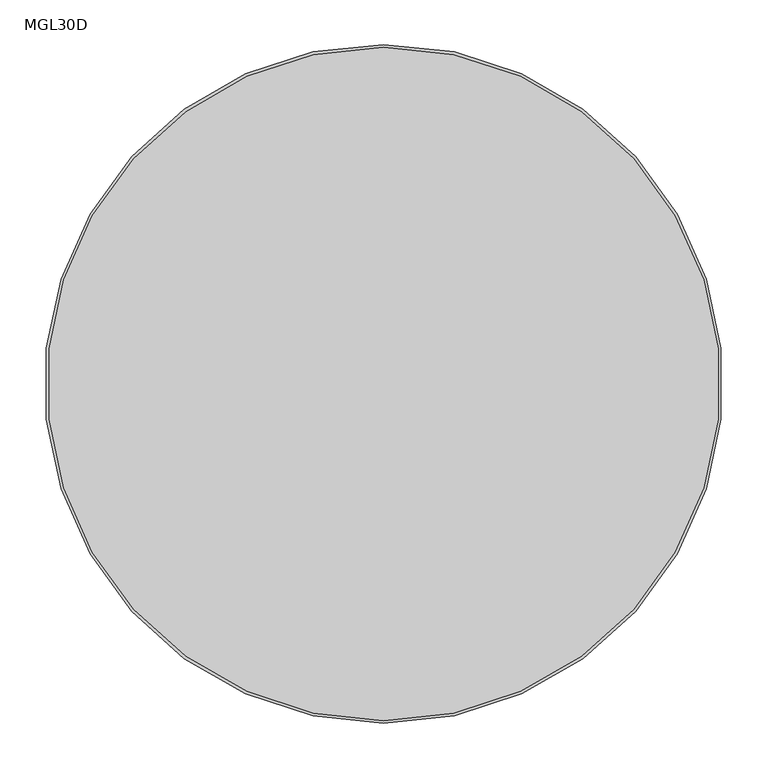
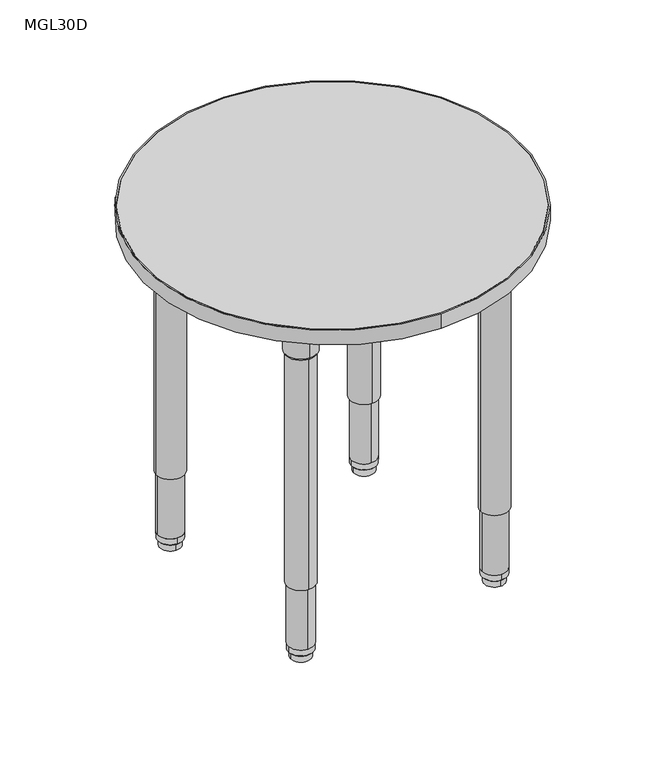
"""IFC4 building model written with IfcOpenShell, lengths in millimetres: furniture geometry, ERG-Mingle-Table-Round : MGL30D."""

from ifc_helpers import new_model, si_unit, point, frame, frame_2d, origin, origin_2d, place, context, project, spatial, polyline, circle_curve, trimmed, segment, composite_curve, outline, extrude, source, transform, mapped, element, save
from ifc_brep_helpers import plane_surface, cylinder_surface, revolved_surface, advanced_brep


def mgl30d_0bfcbd0f(model_context):
    return source(origin(), model_context, "Body", "SolidModel", [
        advanced_brep(
        [(187.8982412, -189.5786792, 650.5933069), (247.9688728, -189.5786792, 650.5933069), (217.933557, -189.5786792, 650.5933069), (185.789674, -189.5786792, 654.3580481), (250.0774401, -189.5786792, 654.3580481), (184.8541922, -189.5786792, 707.7631458), (251.0129219, -189.5786792, 707.7631458), (181.40464, -189.5786792, 714.1198315), (254.462474, -189.5786792, 714.1198315), (181.40464, -189.5786792, 726.8198315), (254.462474, -189.5786792, 726.8198315), (217.933557, -189.5786792, 726.8198315)],
        [
            (0, 1, circle_curve(frame((217.933557, -189.5786792, 650.5933069), z_axis=(0.0, 0.0, -1.0), x_axis=(1.0, 0.0, 0.0)), 30.0353158)),
            (1, 2),
            (2, 0),
            (1, 0, circle_curve(frame((217.933557, -189.5786792, 650.5933069), z_axis=(0.0, 0.0, -1.0), x_axis=(1.0, 0.0, 0.0)), 30.0353158)),
            (3, 4, circle_curve(frame((217.933557, -189.5786792, 654.3580481), z_axis=(0.0, 0.0, -1.0), x_axis=(1.0, 0.0, 0.0)), 32.143883)),
            (4, 1),
            (0, 3),
            (4, 3, circle_curve(frame((217.933557, -189.5786792, 654.3580481), z_axis=(0.0, 0.0, -1.0), x_axis=(1.0, 0.0, 0.0)), 32.143883)),
            (5, 6, circle_curve(frame((217.933557, -189.5786792, 707.7631458), z_axis=(0.0, 0.0, -1.0), x_axis=(1.0, 0.0, 0.0)), 33.0793649)),
            (6, 4),
            (3, 5),
            (6, 5, circle_curve(frame((217.933557, -189.5786792, 707.7631458), z_axis=(0.0, 0.0, -1.0), x_axis=(1.0, 0.0, 0.0)), 33.0793649)),
            (7, 8, circle_curve(frame((217.933557, -189.5786792, 714.1198315), z_axis=(0.0, 0.0, -1.0), x_axis=(1.0, 0.0, 0.0)), 36.528917)),
            (8, 6),
            (5, 7),
            (8, 7, circle_curve(frame((217.933557, -189.5786792, 714.1198315), z_axis=(0.0, 0.0, -1.0), x_axis=(1.0, 0.0, 0.0)), 36.528917)),
            (9, 10, circle_curve(frame((217.933557, -189.5786792, 726.8198315), z_axis=(0.0, 0.0, -1.0), x_axis=(1.0, 0.0, 0.0)), 36.528917)),
            (10, 8),
            (7, 9),
            (10, 9, circle_curve(frame((217.933557, -189.5786792, 726.8198315), z_axis=(0.0, 0.0, -1.0), x_axis=(1.0, 0.0, 0.0)), 36.528917)),
            (11, 10),
            (9, 11),
        ],
        [
            plane_surface(frame((217.933557, -189.5786792, 650.5933069), z_axis=(0.0, 0.0, -1.0), x_axis=(1.0, 0.0, 0.0))),
            revolved_surface(polyline([(247.9688728, -189.5786792, 650.5933069), (250.0774401, -189.5786792, 654.3580481)]), (217.933557, -189.5786792, 726.8198315), (0.0, 0.0, 1.0)),
            revolved_surface(polyline([(250.0774401, -189.5786792, 654.3580481), (251.0129219, -189.5786792, 707.7631458)]), (217.933557, -189.5786792, 726.8198315), (0.0, 0.0, 1.0)),
            revolved_surface(polyline([(251.0129219, -189.5786792, 707.7631458), (254.462474, -189.5786792, 714.1198315)]), (217.933557, -189.5786792, 726.8198315), (0.0, 0.0, 1.0)),
            cylinder_surface(frame((217.933557, -189.5786792, 726.8198315), z_axis=(0.0, 0.0, 1.0), x_axis=(1.0, 0.0, 0.0)), 36.528917),
            plane_surface(frame((217.933557, -189.5786792, 726.8198315), z_axis=(0.0, 0.0, 1.0), x_axis=(1.0, 0.0, 0.0))),
        ],
        [
            (0, [[1, 2, 3]]),
            (0, [[4, -3, -2]]),
            (1, [[5, 6, -1, 7]]),
            (1, [[8, -7, -4, -6]]),
            (2, [[9, 10, -5, 11]]),
            (2, [[12, -11, -8, -10]]),
            (3, [[13, 14, -9, 15]]),
            (3, [[16, -15, -12, -14]]),
            (4, [[17, 18, -13, 19]]),
            (4, [[20, -19, -16, -18]]),
            (5, [[21, -17, 22]]),
            (5, [[-22, -20, -21]]),
        ],
    ),
        extrude(outline(composite_curve([segment(polyline([(263.807325, -107.0010219), (263.807325, -220.7270547)]), True, "CONTINUOUS"), segment(trimmed(circle_curve(frame_2d((247.932325, -220.7270547)), 15.875), [point((263.807325, -220.7270547))], [point((247.932325, -236.6020547))], False, "CARTESIAN"), True, "CONTINUOUS"), segment(polyline([(247.932325, -236.6020547), (134.2199775, -236.6020547)]), True, "CONTINUOUS"), segment(trimmed(circle_curve(frame_2d((134.2199775, -223.9020547)), 12.7), [point((134.2199775, -236.6020547))], [point((121.5827493, -222.6409187))], False, "CARTESIAN"), True, "CONTINUOUS"), segment(trimmed(circle_curve(frame_2d((264.0821647, -236.8616909)), 143.2072406), [point((121.5827493, -222.6409187))], [point((249.8447095, -94.3639414))], False, "CARTESIAN"), True, "CONTINUOUS"), segment(trimmed(circle_curve(frame_2d((251.107325, -107.0010219)), 12.7), [point((249.8447095, -94.3639414))], [point((263.807325, -107.0010219))], False, "CARTESIAN"), True, "CONTINUOUS")], self_intersect=False)), frame((0.0, 0.0, 726.8198315), z_axis=(0.0, 0.0, 1.0), x_axis=(1.0, 0.0, 0.0)), (0.0, 0.0, 1.0), 3.4301685),
        extrude(outline(composite_curve([segment(trimmed(circle_curve(frame_2d((217.933557, -189.5786792)), 28.575), [point((246.508557, -189.5786792))], [point((189.358557, -189.5786792))], False, "CARTESIAN"), True, "CONTINUOUS"), segment(trimmed(circle_curve(frame_2d((217.933557, -189.5786792)), 28.575), [point((189.358557, -189.5786792))], [point((246.508557, -189.5786792))], False, "CARTESIAN"), True, "CONTINUOUS")], self_intersect=False)), frame((0.0, 0.0, 158.3876979), z_axis=(0.0, 0.0, 1.0), x_axis=(1.0, 0.0, 0.0)), (0.0, 0.0, 1.0), 495.4089866),
        extrude(outline(composite_curve([segment(trimmed(circle_curve(frame_2d((217.933557, -189.5786792)), 25.4), [point((243.333557, -189.5786792))], [point((192.533557, -189.5786792))], False, "CARTESIAN"), True, "CONTINUOUS"), segment(trimmed(circle_curve(frame_2d((217.933557, -189.5786792)), 25.4), [point((192.533557, -189.5786792))], [point((243.333557, -189.5786792))], False, "CARTESIAN"), True, "CONTINUOUS")], self_intersect=False)), frame((0.0, 0.0, 28.9580435), z_axis=(0.0, 0.0, 1.0), x_axis=(1.0, 0.0, 0.0)), (0.0, 0.0, 1.0), 176.7049119),
        advanced_brep(
        [(217.933557, -164.3436689, 28.9580185), (217.933557, -214.8136896, 28.9580185), (217.933557, -189.5786792, 28.9580185), (217.933557, -164.4794402, 16.3032949), (217.933557, -214.6779182, 16.3032949), (217.933557, -165.9947411, 14.7291007), (217.933557, -213.1626174, 14.7291007), (217.933557, -168.4378215, 14.7291007), (217.933557, -210.719537, 14.7291007), (217.933557, -168.6308129, 0.0), (217.933557, -210.5265456, 0.0), (217.933557, -189.5786792, 0.0)],
        [
            (0, 1, circle_curve(frame((217.933557, -189.5786792, 28.9580185), z_axis=(0.0, 0.0, 1.0), x_axis=(0.0, -1.0, 0.0)), 25.2350104)),
            (1, 2),
            (2, 0),
            (1, 0, circle_curve(frame((217.933557, -189.5786792, 28.9580185), z_axis=(0.0, 0.0, 1.0), x_axis=(0.0, -1.0, 0.0)), 25.2350104)),
            (3, 4, circle_curve(frame((217.933557, -189.5786792, 16.3032949), z_axis=(0.0, 0.0, 1.0), x_axis=(0.0, -1.0, 0.0)), 25.099239)),
            (4, 1),
            (0, 3),
            (4, 3, circle_curve(frame((217.933557, -189.5786792, 16.3032949), z_axis=(0.0, 0.0, 1.0), x_axis=(0.0, -1.0, 0.0)), 25.099239)),
            (5, 6, circle_curve(frame((217.933557, -189.5786792, 14.7291007), z_axis=(0.0, 0.0, 1.0), x_axis=(0.0, -1.0, 0.0)), 23.5839381)),
            (6, 4),
            (3, 5),
            (6, 5, circle_curve(frame((217.933557, -189.5786792, 14.7291007), z_axis=(0.0, 0.0, 1.0), x_axis=(0.0, -1.0, 0.0)), 23.5839381)),
            (7, 8, circle_curve(frame((217.933557, -189.5786792, 14.7291007), z_axis=(0.0, 0.0, 1.0), x_axis=(0.0, -1.0, 0.0)), 21.1408578)),
            (8, 6),
            (5, 7),
            (8, 7, circle_curve(frame((217.933557, -189.5786792, 14.7291007), z_axis=(0.0, 0.0, 1.0), x_axis=(0.0, -1.0, 0.0)), 21.1408578)),
            (9, 10, circle_curve(frame((217.933557, -189.5786792, 0.0), z_axis=(0.0, 0.0, 1.0), x_axis=(0.0, -1.0, 0.0)), 20.9478664)),
            (10, 8),
            (7, 9),
            (10, 9, circle_curve(frame((217.933557, -189.5786792, 0.0), z_axis=(0.0, 0.0, 1.0), x_axis=(0.0, -1.0, 0.0)), 20.9478664)),
            (11, 10),
            (9, 11),
        ],
        [
            plane_surface(frame((217.933557, -189.5786792, 28.9580185), z_axis=(0.0, 0.0, 1.0), x_axis=(0.0, -1.0, 0.0))),
            revolved_surface(polyline([(217.933557, -214.8136896, 28.9580185), (217.933557, -214.6779182, 16.3032949)]), (217.933557, -189.5786792, 0.0), (0.0, 0.0, -1.0)),
            revolved_surface(polyline([(217.933557, -214.6779182, 16.3032949), (217.933557, -213.1626174, 14.7291007)]), (217.933557, -189.5786792, 0.0), (0.0, 0.0, -1.0)),
            plane_surface(frame((217.933557, -189.5786792, 14.7291007), z_axis=(0.0, 0.0, -1.0), x_axis=(0.0, -1.0, 0.0))),
            revolved_surface(polyline([(217.933557, -210.719537, 14.7291007), (217.933557, -210.5265456, 0.0)]), (217.933557, -189.5786792, 0.0), (0.0, 0.0, -1.0)),
            plane_surface(frame((217.933557, -189.5786792, 0.0), z_axis=(0.0, 0.0, -1.0), x_axis=(0.0, -1.0, 0.0))),
        ],
        [
            (0, [[1, 2, 3]]),
            (0, [[4, -3, -2]]),
            (1, [[5, 6, -1, 7]]),
            (1, [[8, -7, -4, -6]]),
            (2, [[9, 10, -5, 11]]),
            (2, [[12, -11, -8, -10]]),
            (3, [[13, 14, -9, 15]]),
            (3, [[16, -15, -12, -14]]),
            (4, [[17, 18, -13, 19]]),
            (4, [[20, -19, -16, -18]]),
            (5, [[21, -17, 22]]),
            (5, [[-22, -20, -21]]),
        ],
    ),
        advanced_brep(
        [(-189.5786792, -187.8982412, 650.5933069), (-189.5786792, -247.9688728, 650.5933069), (-189.5786792, -217.933557, 650.5933069), (-189.5786792, -185.789674, 654.3580481), (-189.5786792, -250.0774401, 654.3580481), (-189.5786792, -184.8541922, 707.7631458), (-189.5786792, -251.0129219, 707.7631458), (-189.5786792, -181.40464, 714.1198315), (-189.5786792, -254.462474, 714.1198315), (-189.5786792, -181.40464, 726.8198315), (-189.5786792, -254.462474, 726.8198315), (-189.5786792, -217.933557, 726.8198315)],
        [
            (0, 1, circle_curve(frame((-189.5786792, -217.933557, 650.5933069), z_axis=(0.0, 0.0, -1.0), x_axis=(0.0, -1.0, 0.0)), 30.0353158)),
            (1, 2),
            (2, 0),
            (1, 0, circle_curve(frame((-189.5786792, -217.933557, 650.5933069), z_axis=(0.0, 0.0, -1.0), x_axis=(0.0, -1.0, 0.0)), 30.0353158)),
            (3, 4, circle_curve(frame((-189.5786792, -217.933557, 654.3580481), z_axis=(0.0, 0.0, -1.0), x_axis=(0.0, -1.0, 0.0)), 32.143883)),
            (4, 1),
            (0, 3),
            (4, 3, circle_curve(frame((-189.5786792, -217.933557, 654.3580481), z_axis=(0.0, 0.0, -1.0), x_axis=(0.0, -1.0, 0.0)), 32.143883)),
            (5, 6, circle_curve(frame((-189.5786792, -217.933557, 707.7631458), z_axis=(0.0, 0.0, -1.0), x_axis=(0.0, -1.0, 0.0)), 33.0793649)),
            (6, 4),
            (3, 5),
            (6, 5, circle_curve(frame((-189.5786792, -217.933557, 707.7631458), z_axis=(0.0, 0.0, -1.0), x_axis=(0.0, -1.0, 0.0)), 33.0793649)),
            (7, 8, circle_curve(frame((-189.5786792, -217.933557, 714.1198315), z_axis=(0.0, 0.0, -1.0), x_axis=(0.0, -1.0, 0.0)), 36.528917)),
            (8, 6),
            (5, 7),
            (8, 7, circle_curve(frame((-189.5786792, -217.933557, 714.1198315), z_axis=(0.0, 0.0, -1.0), x_axis=(0.0, -1.0, 0.0)), 36.528917)),
            (9, 10, circle_curve(frame((-189.5786792, -217.933557, 726.8198315), z_axis=(0.0, 0.0, -1.0), x_axis=(0.0, -1.0, 0.0)), 36.528917)),
            (10, 8),
            (7, 9),
            (10, 9, circle_curve(frame((-189.5786792, -217.933557, 726.8198315), z_axis=(0.0, 0.0, -1.0), x_axis=(0.0, -1.0, 0.0)), 36.528917)),
            (11, 10),
            (9, 11),
        ],
        [
            plane_surface(frame((-189.5786792, -217.933557, 650.5933069), z_axis=(0.0, 0.0, -1.0), x_axis=(0.0, -1.0, 0.0))),
            revolved_surface(polyline([(-189.5786792, -247.9688728, 650.5933069), (-189.5786792, -250.0774401, 654.3580481)]), (-189.5786792, -217.933557, 726.8198315), (0.0, 0.0, 1.0)),
            revolved_surface(polyline([(-189.5786792, -250.0774401, 654.3580481), (-189.5786792, -251.0129219, 707.7631458)]), (-189.5786792, -217.933557, 726.8198315), (0.0, 0.0, 1.0)),
            revolved_surface(polyline([(-189.5786792, -251.0129219, 707.7631458), (-189.5786792, -254.462474, 714.1198315)]), (-189.5786792, -217.933557, 726.8198315), (0.0, 0.0, 1.0)),
            cylinder_surface(frame((-189.5786792, -217.933557, 726.8198315), z_axis=(0.0, 0.0, 1.0), x_axis=(0.0, -1.0, 0.0)), 36.528917),
            plane_surface(frame((-189.5786792, -217.933557, 726.8198315), z_axis=(0.0, 0.0, 1.0), x_axis=(0.0, -1.0, 0.0))),
        ],
        [
            (0, [[1, 2, 3]]),
            (0, [[4, -3, -2]]),
            (1, [[5, 6, -1, 7]]),
            (1, [[8, -7, -4, -6]]),
            (2, [[9, 10, -5, 11]]),
            (2, [[12, -11, -8, -10]]),
            (3, [[13, 14, -9, 15]]),
            (3, [[16, -15, -12, -14]]),
            (4, [[17, 18, -13, 19]]),
            (4, [[20, -19, -16, -18]]),
            (5, [[21, -17, 22]]),
            (5, [[-22, -20, -21]]),
        ],
    ),
        extrude(outline(composite_curve([segment(polyline([(-107.0010219, -263.807325), (-220.7270547, -263.807325)]), True, "CONTINUOUS"), segment(trimmed(circle_curve(frame_2d((-220.7270547, -247.932325)), 15.875), [point((-220.7270547, -263.807325))], [point((-236.6020547, -247.932325))], False, "CARTESIAN"), True, "CONTINUOUS"), segment(polyline([(-236.6020547, -247.932325), (-236.6020547, -134.2199775)]), True, "CONTINUOUS"), segment(trimmed(circle_curve(frame_2d((-223.9020547, -134.2199775)), 12.7), [point((-236.6020547, -134.2199775))], [point((-222.6409187, -121.5827493))], False, "CARTESIAN"), True, "CONTINUOUS"), segment(trimmed(circle_curve(frame_2d((-236.8616909, -264.0821647)), 143.2072406), [point((-222.6409187, -121.5827493))], [point((-94.3639414, -249.8447095))], False, "CARTESIAN"), True, "CONTINUOUS"), segment(trimmed(circle_curve(frame_2d((-107.0010219, -251.107325)), 12.7), [point((-94.3639414, -249.8447095))], [point((-107.0010219, -263.807325))], False, "CARTESIAN"), True, "CONTINUOUS")], self_intersect=False)), frame((0.0, 0.0, 726.8198315), z_axis=(0.0, 0.0, 1.0), x_axis=(1.0, 0.0, 0.0)), (0.0, 0.0, 1.0), 3.4301685),
        extrude(outline(composite_curve([segment(trimmed(circle_curve(frame_2d((-189.5786792, -217.933557)), 28.575), [point((-189.5786792, -246.508557))], [point((-189.5786792, -189.358557))], False, "CARTESIAN"), True, "CONTINUOUS"), segment(trimmed(circle_curve(frame_2d((-189.5786792, -217.933557)), 28.575), [point((-189.5786792, -189.358557))], [point((-189.5786792, -246.508557))], False, "CARTESIAN"), True, "CONTINUOUS")], self_intersect=False)), frame((0.0, 0.0, 158.3876979), z_axis=(0.0, 0.0, 1.0), x_axis=(1.0, 0.0, 0.0)), (0.0, 0.0, 1.0), 495.4089866),
        extrude(outline(composite_curve([segment(trimmed(circle_curve(frame_2d((-189.5786792, -217.933557)), 25.4), [point((-189.5786792, -243.333557))], [point((-189.5786792, -192.533557))], False, "CARTESIAN"), True, "CONTINUOUS"), segment(trimmed(circle_curve(frame_2d((-189.5786792, -217.933557)), 25.4), [point((-189.5786792, -192.533557))], [point((-189.5786792, -243.333557))], False, "CARTESIAN"), True, "CONTINUOUS")], self_intersect=False)), frame((0.0, 0.0, 28.9580435), z_axis=(0.0, 0.0, 1.0), x_axis=(1.0, 0.0, 0.0)), (0.0, 0.0, 1.0), 176.7049119),
        advanced_brep(
        [(-164.3436689, -217.933557, 28.9580185), (-214.8136896, -217.933557, 28.9580185), (-189.5786792, -217.933557, 28.9580185), (-164.4794402, -217.933557, 16.3032949), (-214.6779182, -217.933557, 16.3032949), (-165.9947411, -217.933557, 14.7291007), (-213.1626174, -217.933557, 14.7291007), (-168.4378215, -217.933557, 14.7291007), (-210.719537, -217.933557, 14.7291007), (-168.6308129, -217.933557, 0.0), (-210.5265456, -217.933557, 0.0), (-189.5786792, -217.933557, 0.0)],
        [
            (0, 1, circle_curve(frame((-189.5786792, -217.933557, 28.9580185), z_axis=(0.0, 0.0, 1.0), x_axis=(-1.0, 0.0, 0.0)), 25.2350104)),
            (1, 2),
            (2, 0),
            (1, 0, circle_curve(frame((-189.5786792, -217.933557, 28.9580185), z_axis=(0.0, 0.0, 1.0), x_axis=(-1.0, 0.0, 0.0)), 25.2350104)),
            (3, 4, circle_curve(frame((-189.5786792, -217.933557, 16.3032949), z_axis=(0.0, 0.0, 1.0), x_axis=(-1.0, 0.0, 0.0)), 25.099239)),
            (4, 1),
            (0, 3),
            (4, 3, circle_curve(frame((-189.5786792, -217.933557, 16.3032949), z_axis=(0.0, 0.0, 1.0), x_axis=(-1.0, 0.0, 0.0)), 25.099239)),
            (5, 6, circle_curve(frame((-189.5786792, -217.933557, 14.7291007), z_axis=(0.0, 0.0, 1.0), x_axis=(-1.0, 0.0, 0.0)), 23.5839381)),
            (6, 4),
            (3, 5),
            (6, 5, circle_curve(frame((-189.5786792, -217.933557, 14.7291007), z_axis=(0.0, 0.0, 1.0), x_axis=(-1.0, 0.0, 0.0)), 23.5839381)),
            (7, 8, circle_curve(frame((-189.5786792, -217.933557, 14.7291007), z_axis=(0.0, 0.0, 1.0), x_axis=(-1.0, 0.0, 0.0)), 21.1408578)),
            (8, 6),
            (5, 7),
            (8, 7, circle_curve(frame((-189.5786792, -217.933557, 14.7291007), z_axis=(0.0, 0.0, 1.0), x_axis=(-1.0, 0.0, 0.0)), 21.1408578)),
            (9, 10, circle_curve(frame((-189.5786792, -217.933557, 0.0), z_axis=(0.0, 0.0, 1.0), x_axis=(-1.0, 0.0, 0.0)), 20.9478664)),
            (10, 8),
            (7, 9),
            (10, 9, circle_curve(frame((-189.5786792, -217.933557, 0.0), z_axis=(0.0, 0.0, 1.0), x_axis=(-1.0, 0.0, 0.0)), 20.9478664)),
            (11, 10),
            (9, 11),
        ],
        [
            plane_surface(frame((-189.5786792, -217.933557, 28.9580185), z_axis=(0.0, 0.0, 1.0), x_axis=(-1.0, 0.0, 0.0))),
            revolved_surface(polyline([(-214.8136896, -217.933557, 28.9580185), (-214.6779182, -217.933557, 16.3032949)]), (-189.5786792, -217.933557, 0.0), (0.0, 0.0, -1.0)),
            revolved_surface(polyline([(-214.6779182, -217.933557, 16.3032949), (-213.1626174, -217.933557, 14.7291007)]), (-189.5786792, -217.933557, 0.0), (0.0, 0.0, -1.0)),
            plane_surface(frame((-189.5786792, -217.933557, 14.7291007), z_axis=(0.0, 0.0, -1.0), x_axis=(-1.0, 0.0, 0.0))),
            revolved_surface(polyline([(-210.719537, -217.933557, 14.7291007), (-210.5265456, -217.933557, 0.0)]), (-189.5786792, -217.933557, 0.0), (0.0, 0.0, -1.0)),
            plane_surface(frame((-189.5786792, -217.933557, 0.0), z_axis=(0.0, 0.0, -1.0), x_axis=(-1.0, 0.0, 0.0))),
        ],
        [
            (0, [[1, 2, 3]]),
            (0, [[4, -3, -2]]),
            (1, [[5, 6, -1, 7]]),
            (1, [[8, -7, -4, -6]]),
            (2, [[9, 10, -5, 11]]),
            (2, [[12, -11, -8, -10]]),
            (3, [[13, 14, -9, 15]]),
            (3, [[16, -15, -12, -14]]),
            (4, [[17, 18, -13, 19]]),
            (4, [[20, -19, -16, -18]]),
            (5, [[21, -17, 22]]),
            (5, [[-22, -20, -21]]),
        ],
    ),
        advanced_brep(
        [(189.5786792, 187.8982412, 650.5933069), (189.5786792, 247.9688728, 650.5933069), (189.5786792, 217.933557, 650.5933069), (189.5786792, 185.789674, 654.3580481), (189.5786792, 250.0774401, 654.3580481), (189.5786792, 184.8541922, 707.7631458), (189.5786792, 251.0129219, 707.7631458), (189.5786792, 181.40464, 714.1198315), (189.5786792, 254.462474, 714.1198315), (189.5786792, 181.40464, 726.8198315), (189.5786792, 254.462474, 726.8198315), (189.5786792, 217.933557, 726.8198315)],
        [
            (0, 1, circle_curve(frame((189.5786792, 217.933557, 650.5933069), z_axis=(0.0, 0.0, -1.0), x_axis=(0.0, 1.0, 0.0)), 30.0353158)),
            (1, 2),
            (2, 0),
            (1, 0, circle_curve(frame((189.5786792, 217.933557, 650.5933069), z_axis=(0.0, 0.0, -1.0), x_axis=(0.0, 1.0, 0.0)), 30.0353158)),
            (3, 4, circle_curve(frame((189.5786792, 217.933557, 654.3580481), z_axis=(0.0, 0.0, -1.0), x_axis=(0.0, 1.0, 0.0)), 32.143883)),
            (4, 1),
            (0, 3),
            (4, 3, circle_curve(frame((189.5786792, 217.933557, 654.3580481), z_axis=(0.0, 0.0, -1.0), x_axis=(0.0, 1.0, 0.0)), 32.143883)),
            (5, 6, circle_curve(frame((189.5786792, 217.933557, 707.7631458), z_axis=(0.0, 0.0, -1.0), x_axis=(0.0, 1.0, 0.0)), 33.0793649)),
            (6, 4),
            (3, 5),
            (6, 5, circle_curve(frame((189.5786792, 217.933557, 707.7631458), z_axis=(0.0, 0.0, -1.0), x_axis=(0.0, 1.0, 0.0)), 33.0793649)),
            (7, 8, circle_curve(frame((189.5786792, 217.933557, 714.1198315), z_axis=(0.0, 0.0, -1.0), x_axis=(0.0, 1.0, 0.0)), 36.528917)),
            (8, 6),
            (5, 7),
            (8, 7, circle_curve(frame((189.5786792, 217.933557, 714.1198315), z_axis=(0.0, 0.0, -1.0), x_axis=(0.0, 1.0, 0.0)), 36.528917)),
            (9, 10, circle_curve(frame((189.5786792, 217.933557, 726.8198315), z_axis=(0.0, 0.0, -1.0), x_axis=(0.0, 1.0, 0.0)), 36.528917)),
            (10, 8),
            (7, 9),
            (10, 9, circle_curve(frame((189.5786792, 217.933557, 726.8198315), z_axis=(0.0, 0.0, -1.0), x_axis=(0.0, 1.0, 0.0)), 36.528917)),
            (11, 10),
            (9, 11),
        ],
        [
            plane_surface(frame((189.5786792, 217.933557, 650.5933069), z_axis=(0.0, 0.0, -1.0), x_axis=(0.0, 1.0, 0.0))),
            revolved_surface(polyline([(189.5786792, 247.9688728, 650.5933069), (189.5786792, 250.0774401, 654.3580481)]), (189.5786792, 217.933557, 726.8198315), (0.0, 0.0, 1.0)),
            revolved_surface(polyline([(189.5786792, 250.0774401, 654.3580481), (189.5786792, 251.0129219, 707.7631458)]), (189.5786792, 217.933557, 726.8198315), (0.0, 0.0, 1.0)),
            revolved_surface(polyline([(189.5786792, 251.0129219, 707.7631458), (189.5786792, 254.462474, 714.1198315)]), (189.5786792, 217.933557, 726.8198315), (0.0, 0.0, 1.0)),
            cylinder_surface(frame((189.5786792, 217.933557, 726.8198315), z_axis=(0.0, 0.0, 1.0), x_axis=(0.0, 1.0, 0.0)), 36.528917),
            plane_surface(frame((189.5786792, 217.933557, 726.8198315), z_axis=(0.0, 0.0, 1.0), x_axis=(0.0, 1.0, 0.0))),
        ],
        [
            (0, [[1, 2, 3]]),
            (0, [[4, -3, -2]]),
            (1, [[5, 6, -1, 7]]),
            (1, [[8, -7, -4, -6]]),
            (2, [[9, 10, -5, 11]]),
            (2, [[12, -11, -8, -10]]),
            (3, [[13, 14, -9, 15]]),
            (3, [[16, -15, -12, -14]]),
            (4, [[17, 18, -13, 19]]),
            (4, [[20, -19, -16, -18]]),
            (5, [[21, -17, 22]]),
            (5, [[-22, -20, -21]]),
        ],
    ),
        extrude(outline(composite_curve([segment(polyline([(107.0010219, 263.807325), (220.7270547, 263.807325)]), True, "CONTINUOUS"), segment(trimmed(circle_curve(frame_2d((220.7270547, 247.932325)), 15.875), [point((220.7270547, 263.807325))], [point((236.6020547, 247.932325))], False, "CARTESIAN"), True, "CONTINUOUS"), segment(polyline([(236.6020547, 247.932325), (236.6020547, 134.2199775)]), True, "CONTINUOUS"), segment(trimmed(circle_curve(frame_2d((223.9020547, 134.2199775)), 12.7), [point((236.6020547, 134.2199775))], [point((222.6409187, 121.5827493))], False, "CARTESIAN"), True, "CONTINUOUS"), segment(trimmed(circle_curve(frame_2d((236.8616909, 264.0821647)), 143.2072406), [point((222.6409187, 121.5827493))], [point((94.3639414, 249.8447095))], False, "CARTESIAN"), True, "CONTINUOUS"), segment(trimmed(circle_curve(frame_2d((107.0010219, 251.107325)), 12.7), [point((94.3639414, 249.8447095))], [point((107.0010219, 263.807325))], False, "CARTESIAN"), True, "CONTINUOUS")], self_intersect=False)), frame((0.0, 0.0, 726.8198315), z_axis=(0.0, 0.0, 1.0), x_axis=(1.0, 0.0, 0.0)), (0.0, 0.0, 1.0), 3.4301685),
        extrude(outline(composite_curve([segment(trimmed(circle_curve(frame_2d((189.5786792, 217.933557)), 28.575), [point((189.5786792, 246.508557))], [point((189.5786792, 189.358557))], False, "CARTESIAN"), True, "CONTINUOUS"), segment(trimmed(circle_curve(frame_2d((189.5786792, 217.933557)), 28.575), [point((189.5786792, 189.358557))], [point((189.5786792, 246.508557))], False, "CARTESIAN"), True, "CONTINUOUS")], self_intersect=False)), frame((0.0, 0.0, 158.3876979), z_axis=(0.0, 0.0, 1.0), x_axis=(1.0, 0.0, 0.0)), (0.0, 0.0, 1.0), 495.4089866),
        extrude(outline(composite_curve([segment(trimmed(circle_curve(frame_2d((189.5786792, 217.933557)), 25.4), [point((189.5786792, 243.333557))], [point((189.5786792, 192.533557))], False, "CARTESIAN"), True, "CONTINUOUS"), segment(trimmed(circle_curve(frame_2d((189.5786792, 217.933557)), 25.4), [point((189.5786792, 192.533557))], [point((189.5786792, 243.333557))], False, "CARTESIAN"), True, "CONTINUOUS")], self_intersect=False)), frame((0.0, 0.0, 28.9580435), z_axis=(0.0, 0.0, 1.0), x_axis=(1.0, 0.0, 0.0)), (0.0, 0.0, 1.0), 176.7049119),
        advanced_brep(
        [(164.3436689, 217.933557, 28.9580185), (214.8136896, 217.933557, 28.9580185), (189.5786792, 217.933557, 28.9580185), (164.4794402, 217.933557, 16.3032949), (214.6779182, 217.933557, 16.3032949), (165.9947411, 217.933557, 14.7291007), (213.1626174, 217.933557, 14.7291007), (168.4378215, 217.933557, 14.7291007), (210.719537, 217.933557, 14.7291007), (168.6308129, 217.933557, 0.0), (210.5265456, 217.933557, 0.0), (189.5786792, 217.933557, 0.0)],
        [
            (0, 1, circle_curve(frame((189.5786792, 217.933557, 28.9580185), z_axis=(0.0, 0.0, 1.0), x_axis=(1.0, 0.0, 0.0)), 25.2350104)),
            (1, 2),
            (2, 0),
            (1, 0, circle_curve(frame((189.5786792, 217.933557, 28.9580185), z_axis=(0.0, 0.0, 1.0), x_axis=(1.0, 0.0, 0.0)), 25.2350104)),
            (3, 4, circle_curve(frame((189.5786792, 217.933557, 16.3032949), z_axis=(0.0, 0.0, 1.0), x_axis=(1.0, 0.0, 0.0)), 25.099239)),
            (4, 1),
            (0, 3),
            (4, 3, circle_curve(frame((189.5786792, 217.933557, 16.3032949), z_axis=(0.0, 0.0, 1.0), x_axis=(1.0, 0.0, 0.0)), 25.099239)),
            (5, 6, circle_curve(frame((189.5786792, 217.933557, 14.7291007), z_axis=(0.0, 0.0, 1.0), x_axis=(1.0, 0.0, 0.0)), 23.5839381)),
            (6, 4),
            (3, 5),
            (6, 5, circle_curve(frame((189.5786792, 217.933557, 14.7291007), z_axis=(0.0, 0.0, 1.0), x_axis=(1.0, 0.0, 0.0)), 23.5839381)),
            (7, 8, circle_curve(frame((189.5786792, 217.933557, 14.7291007), z_axis=(0.0, 0.0, 1.0), x_axis=(1.0, 0.0, 0.0)), 21.1408578)),
            (8, 6),
            (5, 7),
            (8, 7, circle_curve(frame((189.5786792, 217.933557, 14.7291007), z_axis=(0.0, 0.0, 1.0), x_axis=(1.0, 0.0, 0.0)), 21.1408578)),
            (9, 10, circle_curve(frame((189.5786792, 217.933557, 0.0), z_axis=(0.0, 0.0, 1.0), x_axis=(1.0, 0.0, 0.0)), 20.9478664)),
            (10, 8),
            (7, 9),
            (10, 9, circle_curve(frame((189.5786792, 217.933557, 0.0), z_axis=(0.0, 0.0, 1.0), x_axis=(1.0, 0.0, 0.0)), 20.9478664)),
            (11, 10),
            (9, 11),
        ],
        [
            plane_surface(frame((189.5786792, 217.933557, 28.9580185), z_axis=(0.0, 0.0, 1.0), x_axis=(1.0, 0.0, 0.0))),
            revolved_surface(polyline([(214.8136896, 217.933557, 28.9580185), (214.6779182, 217.933557, 16.3032949)]), (189.5786792, 217.933557, 0.0), (0.0, 0.0, -1.0)),
            revolved_surface(polyline([(214.6779182, 217.933557, 16.3032949), (213.1626174, 217.933557, 14.7291007)]), (189.5786792, 217.933557, 0.0), (0.0, 0.0, -1.0)),
            plane_surface(frame((189.5786792, 217.933557, 14.7291007), z_axis=(0.0, 0.0, -1.0), x_axis=(1.0, 0.0, 0.0))),
            revolved_surface(polyline([(210.719537, 217.933557, 14.7291007), (210.5265456, 217.933557, 0.0)]), (189.5786792, 217.933557, 0.0), (0.0, 0.0, -1.0)),
            plane_surface(frame((189.5786792, 217.933557, 0.0), z_axis=(0.0, 0.0, -1.0), x_axis=(1.0, 0.0, 0.0))),
        ],
        [
            (0, [[1, 2, 3]]),
            (0, [[4, -3, -2]]),
            (1, [[5, 6, -1, 7]]),
            (1, [[8, -7, -4, -6]]),
            (2, [[9, 10, -5, 11]]),
            (2, [[12, -11, -8, -10]]),
            (3, [[13, 14, -9, 15]]),
            (3, [[16, -15, -12, -14]]),
            (4, [[17, 18, -13, 19]]),
            (4, [[20, -19, -16, -18]]),
            (5, [[21, -17, 22]]),
            (5, [[-22, -20, -21]]),
        ],
    ),
        advanced_brep(
        [(-187.8982412, 189.5786792, 650.5933069), (-247.9688728, 189.5786792, 650.5933069), (-217.933557, 189.5786792, 650.5933069), (-185.789674, 189.5786792, 654.3580481), (-250.0774401, 189.5786792, 654.3580481), (-184.8541922, 189.5786792, 707.7631458), (-251.0129219, 189.5786792, 707.7631458), (-181.40464, 189.5786792, 714.1198315), (-254.462474, 189.5786792, 714.1198315), (-181.40464, 189.5786792, 726.8198315), (-254.462474, 189.5786792, 726.8198315), (-217.933557, 189.5786792, 726.8198315)],
        [
            (0, 1, circle_curve(frame((-217.933557, 189.5786792, 650.5933069), z_axis=(0.0, 0.0, -1.0), x_axis=(-1.0, 0.0, 0.0)), 30.0353158)),
            (1, 2),
            (2, 0),
            (1, 0, circle_curve(frame((-217.933557, 189.5786792, 650.5933069), z_axis=(0.0, 0.0, -1.0), x_axis=(-1.0, 0.0, 0.0)), 30.0353158)),
            (3, 4, circle_curve(frame((-217.933557, 189.5786792, 654.3580481), z_axis=(0.0, 0.0, -1.0), x_axis=(-1.0, 0.0, 0.0)), 32.143883)),
            (4, 1),
            (0, 3),
            (4, 3, circle_curve(frame((-217.933557, 189.5786792, 654.3580481), z_axis=(0.0, 0.0, -1.0), x_axis=(-1.0, 0.0, 0.0)), 32.143883)),
            (5, 6, circle_curve(frame((-217.933557, 189.5786792, 707.7631458), z_axis=(0.0, 0.0, -1.0), x_axis=(-1.0, 0.0, 0.0)), 33.0793649)),
            (6, 4),
            (3, 5),
            (6, 5, circle_curve(frame((-217.933557, 189.5786792, 707.7631458), z_axis=(0.0, 0.0, -1.0), x_axis=(-1.0, 0.0, 0.0)), 33.0793649)),
            (7, 8, circle_curve(frame((-217.933557, 189.5786792, 714.1198315), z_axis=(0.0, 0.0, -1.0), x_axis=(-1.0, 0.0, 0.0)), 36.528917)),
            (8, 6),
            (5, 7),
            (8, 7, circle_curve(frame((-217.933557, 189.5786792, 714.1198315), z_axis=(0.0, 0.0, -1.0), x_axis=(-1.0, 0.0, 0.0)), 36.528917)),
            (9, 10, circle_curve(frame((-217.933557, 189.5786792, 726.8198315), z_axis=(0.0, 0.0, -1.0), x_axis=(-1.0, 0.0, 0.0)), 36.528917)),
            (10, 8),
            (7, 9),
            (10, 9, circle_curve(frame((-217.933557, 189.5786792, 726.8198315), z_axis=(0.0, 0.0, -1.0), x_axis=(-1.0, 0.0, 0.0)), 36.528917)),
            (11, 10),
            (9, 11),
        ],
        [
            plane_surface(frame((-217.933557, 189.5786792, 650.5933069), z_axis=(0.0, 0.0, -1.0), x_axis=(-1.0, 0.0, 0.0))),
            revolved_surface(polyline([(-247.9688728, 189.5786792, 650.5933069), (-250.0774401, 189.5786792, 654.3580481)]), (-217.933557, 189.5786792, 726.8198315), (0.0, 0.0, 1.0)),
            revolved_surface(polyline([(-250.0774401, 189.5786792, 654.3580481), (-251.0129219, 189.5786792, 707.7631458)]), (-217.933557, 189.5786792, 726.8198315), (0.0, 0.0, 1.0)),
            revolved_surface(polyline([(-251.0129219, 189.5786792, 707.7631458), (-254.462474, 189.5786792, 714.1198315)]), (-217.933557, 189.5786792, 726.8198315), (0.0, 0.0, 1.0)),
            cylinder_surface(frame((-217.933557, 189.5786792, 726.8198315), z_axis=(0.0, 0.0, 1.0), x_axis=(-1.0, 0.0, 0.0)), 36.528917),
            plane_surface(frame((-217.933557, 189.5786792, 726.8198315), z_axis=(0.0, 0.0, 1.0), x_axis=(-1.0, 0.0, 0.0))),
        ],
        [
            (0, [[1, 2, 3]]),
            (0, [[4, -3, -2]]),
            (1, [[5, 6, -1, 7]]),
            (1, [[8, -7, -4, -6]]),
            (2, [[9, 10, -5, 11]]),
            (2, [[12, -11, -8, -10]]),
            (3, [[13, 14, -9, 15]]),
            (3, [[16, -15, -12, -14]]),
            (4, [[17, 18, -13, 19]]),
            (4, [[20, -19, -16, -18]]),
            (5, [[21, -17, 22]]),
            (5, [[-22, -20, -21]]),
        ],
    ),
        extrude(outline(composite_curve([segment(polyline([(-263.807325, 107.0010219), (-263.807325, 220.7270547)]), True, "CONTINUOUS"), segment(trimmed(circle_curve(frame_2d((-247.932325, 220.7270547)), 15.875), [point((-263.807325, 220.7270547))], [point((-247.932325, 236.6020547))], False, "CARTESIAN"), True, "CONTINUOUS"), segment(polyline([(-247.932325, 236.6020547), (-134.2199775, 236.6020547)]), True, "CONTINUOUS"), segment(trimmed(circle_curve(frame_2d((-134.2199775, 223.9020547)), 12.7), [point((-134.2199775, 236.6020547))], [point((-121.5827493, 222.6409187))], False, "CARTESIAN"), True, "CONTINUOUS"), segment(trimmed(circle_curve(frame_2d((-264.0821647, 236.8616909)), 143.2072406), [point((-121.5827493, 222.6409187))], [point((-249.8447095, 94.3639414))], False, "CARTESIAN"), True, "CONTINUOUS"), segment(trimmed(circle_curve(frame_2d((-251.107325, 107.0010219)), 12.7), [point((-249.8447095, 94.3639414))], [point((-263.807325, 107.0010219))], False, "CARTESIAN"), True, "CONTINUOUS")], self_intersect=False)), frame((0.0, 0.0, 726.8198315), z_axis=(0.0, 0.0, 1.0), x_axis=(1.0, 0.0, 0.0)), (0.0, 0.0, 1.0), 3.4301685),
        extrude(outline(composite_curve([segment(trimmed(circle_curve(frame_2d((-217.933557, 189.5786792)), 28.575), [point((-246.508557, 189.5786792))], [point((-189.358557, 189.5786792))], False, "CARTESIAN"), True, "CONTINUOUS"), segment(trimmed(circle_curve(frame_2d((-217.933557, 189.5786792)), 28.575), [point((-189.358557, 189.5786792))], [point((-246.508557, 189.5786792))], False, "CARTESIAN"), True, "CONTINUOUS")], self_intersect=False)), frame((0.0, 0.0, 158.3876979), z_axis=(0.0, 0.0, 1.0), x_axis=(1.0, 0.0, 0.0)), (0.0, 0.0, 1.0), 495.4089866),
        extrude(outline(composite_curve([segment(trimmed(circle_curve(frame_2d((-217.933557, 189.5786792)), 25.4), [point((-243.333557, 189.5786792))], [point((-192.533557, 189.5786792))], False, "CARTESIAN"), True, "CONTINUOUS"), segment(trimmed(circle_curve(frame_2d((-217.933557, 189.5786792)), 25.4), [point((-192.533557, 189.5786792))], [point((-243.333557, 189.5786792))], False, "CARTESIAN"), True, "CONTINUOUS")], self_intersect=False)), frame((0.0, 0.0, 28.9580435), z_axis=(0.0, 0.0, 1.0), x_axis=(1.0, 0.0, 0.0)), (0.0, 0.0, 1.0), 176.7049119),
        advanced_brep(
        [(-217.933557, 164.3436689, 28.9580185), (-217.933557, 214.8136896, 28.9580185), (-217.933557, 189.5786792, 28.9580185), (-217.933557, 164.4794402, 16.3032949), (-217.933557, 214.6779182, 16.3032949), (-217.933557, 165.9947411, 14.7291007), (-217.933557, 213.1626174, 14.7291007), (-217.933557, 168.4378215, 14.7291007), (-217.933557, 210.719537, 14.7291007), (-217.933557, 168.6308129, 0.0), (-217.933557, 210.5265456, 0.0), (-217.933557, 189.5786792, 0.0)],
        [
            (0, 1, circle_curve(frame((-217.933557, 189.5786792, 28.9580185), z_axis=(0.0, 0.0, 1.0), x_axis=(0.0, 1.0, 0.0)), 25.2350104)),
            (1, 2),
            (2, 0),
            (1, 0, circle_curve(frame((-217.933557, 189.5786792, 28.9580185), z_axis=(0.0, 0.0, 1.0), x_axis=(0.0, 1.0, 0.0)), 25.2350104)),
            (3, 4, circle_curve(frame((-217.933557, 189.5786792, 16.3032949), z_axis=(0.0, 0.0, 1.0), x_axis=(0.0, 1.0, 0.0)), 25.099239)),
            (4, 1),
            (0, 3),
            (4, 3, circle_curve(frame((-217.933557, 189.5786792, 16.3032949), z_axis=(0.0, 0.0, 1.0), x_axis=(0.0, 1.0, 0.0)), 25.099239)),
            (5, 6, circle_curve(frame((-217.933557, 189.5786792, 14.7291007), z_axis=(0.0, 0.0, 1.0), x_axis=(0.0, 1.0, 0.0)), 23.5839381)),
            (6, 4),
            (3, 5),
            (6, 5, circle_curve(frame((-217.933557, 189.5786792, 14.7291007), z_axis=(0.0, 0.0, 1.0), x_axis=(0.0, 1.0, 0.0)), 23.5839381)),
            (7, 8, circle_curve(frame((-217.933557, 189.5786792, 14.7291007), z_axis=(0.0, 0.0, 1.0), x_axis=(0.0, 1.0, 0.0)), 21.1408578)),
            (8, 6),
            (5, 7),
            (8, 7, circle_curve(frame((-217.933557, 189.5786792, 14.7291007), z_axis=(0.0, 0.0, 1.0), x_axis=(0.0, 1.0, 0.0)), 21.1408578)),
            (9, 10, circle_curve(frame((-217.933557, 189.5786792, 0.0), z_axis=(0.0, 0.0, 1.0), x_axis=(0.0, 1.0, 0.0)), 20.9478664)),
            (10, 8),
            (7, 9),
            (10, 9, circle_curve(frame((-217.933557, 189.5786792, 0.0), z_axis=(0.0, 0.0, 1.0), x_axis=(0.0, 1.0, 0.0)), 20.9478664)),
            (11, 10),
            (9, 11),
        ],
        [
            plane_surface(frame((-217.933557, 189.5786792, 28.9580185), z_axis=(0.0, 0.0, 1.0), x_axis=(0.0, 1.0, 0.0))),
            revolved_surface(polyline([(-217.933557, 214.8136896, 28.9580185), (-217.933557, 214.6779182, 16.3032949)]), (-217.933557, 189.5786792, 0.0), (0.0, 0.0, -1.0)),
            revolved_surface(polyline([(-217.933557, 214.6779182, 16.3032949), (-217.933557, 213.1626174, 14.7291007)]), (-217.933557, 189.5786792, 0.0), (0.0, 0.0, -1.0)),
            plane_surface(frame((-217.933557, 189.5786792, 14.7291007), z_axis=(0.0, 0.0, -1.0), x_axis=(0.0, 1.0, 0.0))),
            revolved_surface(polyline([(-217.933557, 210.719537, 14.7291007), (-217.933557, 210.5265456, 0.0)]), (-217.933557, 189.5786792, 0.0), (0.0, 0.0, -1.0)),
            plane_surface(frame((-217.933557, 189.5786792, 0.0), z_axis=(0.0, 0.0, -1.0), x_axis=(0.0, 1.0, 0.0))),
        ],
        [
            (0, [[1, 2, 3]]),
            (0, [[4, -3, -2]]),
            (1, [[5, 6, -1, 7]]),
            (1, [[8, -7, -4, -6]]),
            (2, [[9, 10, -5, 11]]),
            (2, [[12, -11, -8, -10]]),
            (3, [[13, 14, -9, 15]]),
            (3, [[16, -15, -12, -14]]),
            (4, [[17, 18, -13, 19]]),
            (4, [[20, -19, -16, -18]]),
            (5, [[21, -17, 22]]),
            (5, [[-22, -20, -21]]),
        ],
    ),
        extrude(outline(composite_curve([segment(trimmed(circle_curve(origin_2d(), 377.825), [point((0.0, -377.825))], [point((0.0, 377.825))], False, "CARTESIAN"), True, "CONTINUOUS"), segment(trimmed(circle_curve(origin_2d(), 377.825), [point((0.0, 377.825))], [point((0.0, -377.825))], False, "CARTESIAN"), True, "CONTINUOUS")], self_intersect=False)), frame((0.0, 0.0, 730.25), z_axis=(0.0, 0.0, 1.0), x_axis=(1.0, 0.0, 0.0)), (0.0, 0.0, 1.0), 31.75),
        extrude(outline(composite_curve([segment(trimmed(circle_curve(origin_2d(), 381.0), [point((0.0, -381.0))], [point((0.0, 381.0))], False, "CARTESIAN"), True, "CONTINUOUS"), segment(trimmed(circle_curve(origin_2d(), 381.0), [point((0.0, 381.0))], [point((0.0, -381.0))], False, "CARTESIAN"), True, "CONTINUOUS")], self_intersect=False), holes=[composite_curve([segment(trimmed(circle_curve(origin_2d(), 377.825), [point((0.0, 377.825))], [point((0.0, -377.825))], True, "CARTESIAN"), True, "CONTINUOUS"), segment(trimmed(circle_curve(origin_2d(), 377.825), [point((0.0, -377.825))], [point((0.0, 377.825))], True, "CARTESIAN"), True, "CONTINUOUS")], self_intersect=False)]), frame((0.0, 0.0, 730.25), z_axis=(0.0, 0.0, 1.0), x_axis=(1.0, 0.0, 0.0)), (0.0, 0.0, 1.0), 31.75),
    ])


if __name__ == "__main__":
    model = new_model("IFC4")
    model_context = context("Model", 3, world=origin())
    ifc_project = project(units=[si_unit("LENGTHUNIT", "METRE", prefix="MILLI")], contexts=[model_context])
    site = spatial("IfcSite", under=ifc_project)
    building = spatial("IfcBuilding", under=site)
    placement = place(None, origin())
    mgl30d_shape = mgl30d_0bfcbd0f(model_context)
    element("IfcFurniture", 1, ObjectType="ERG-Mingle-Table-Round : MGL30D", at=placement, inside=building, context=model_context, shape_type="MappedRepresentation", body=[
        mapped(mgl30d_shape, transform((0.0, 0.0, 0.0), x_axis=(1.0, 0.0, 0.0), y_axis=(0.0, 1.0, 0.0), z_axis=(0.0, 0.0, 1.0))),
    ])
    save(model, "model.ifc")
